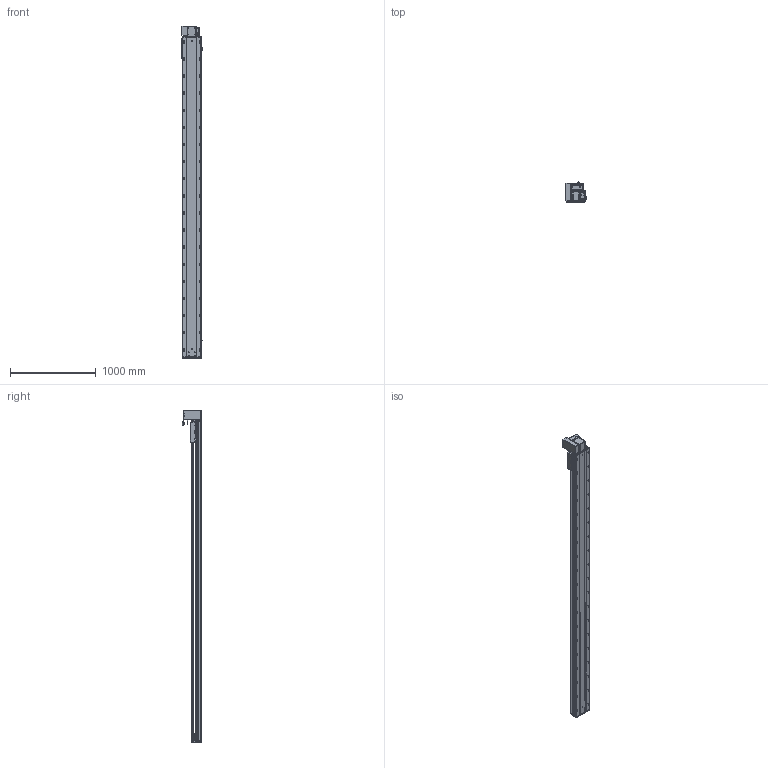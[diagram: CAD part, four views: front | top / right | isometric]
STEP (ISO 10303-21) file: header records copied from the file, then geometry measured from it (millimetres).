
FILE_DESCRIPTION (( 'STEP AP203' ), '1' );
FILE_NAME ('RY220-T-300-UL.SLDASM_3400.step', '2022-07-25T08:36:58', ( '' ), ( '' ), 'SwSTEP 2.0', 'SolidWorks 2016', '' );
FILE_SCHEMA (( 'CONFIG_CONTROL_DESIGN' ));
Length unit declared in the file: millimetre
Products named in the file (14): 怢湛750W_ECMA-CX0807ES; RY220-T-湍謫欶(鍼踢); 110A-T-肮祭謫釱傷裔; RY220-T-300-UL.SLDASM_3400; RY220翋肮祭謫裔啣; RY220-同步轮副支撑座6304×2; RY220-俋离672覜茼んえ; RY220翋肮祭謫釱; RY220-T-300-奻裔啣_3400; RY220圉猾敕々湍臏賑輸; RY220-T-蛌殏萇儂假蚾啣(750W); 滅袉蝶18-15; RY220-T菁釱-300_3400; 覜茼ん672
Assembly tree (18 placements, depth 2):
  RY220-T-300-UL.SLDASM_3400
    RY220-T菁釱-300_3400
    RY220翋肮祭謫釱
    覜茼ん672  x3
    RY220圉猾敕々湍臏賑輸
    RY220-T-300-奻裔啣_3400
    RY220-俋离672覜茼んえ
    滅袉蝶18-15  x3
    RY220翋肮祭謫裔啣  x2
    110A-T-肮祭謫釱傷裔
    怢湛750W_ECMA-CX0807ES
    RY220-T-湍謫欶(鍼踢)
    RY220-T-蛌殏萇儂假蚾啣(750W)
    RY220-同步轮副支撑座6304×2
Bounding box: 239.7 x 231.74 x 3880.5 mm (x, y, z)
Volume: 27793636.3 mm3; surface area: 8642703.3 mm2
Topology: 19 solids, 19 shells, 3112 faces, 8611 edges, 5374 vertices
Faces by surface type: cylinder 1552, plane 1069, cone 409, bspline 56, sphere 16, torus 10
Entity records: 103763 total; most frequent: CARTESIAN_POINT 29165, ORIENTED_EDGE 15386, DIRECTION 14940, EDGE_CURVE 7693, AXIS2_PLACEMENT_3D 5418, VERTEX_POINT 4998, VECTOR 4104, LINE 4104
